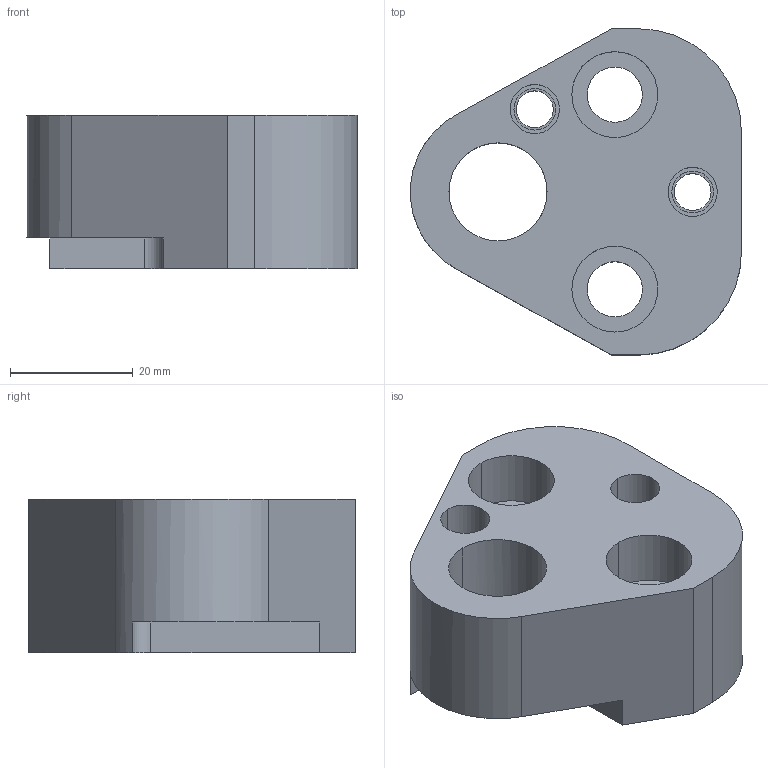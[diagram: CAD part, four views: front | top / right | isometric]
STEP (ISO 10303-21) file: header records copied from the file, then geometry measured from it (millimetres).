
FILE_DESCRIPTION(/* description */ (''),/* implementation_level */ '2;1');
FILE_NAME(/* name */ '3d_25crn-f16_03137_r00.stp',/* time_stamp */ '2011-01-10T14:17:54+09:00',/* author */ ('MISUMI'),/* organization */ (''),/* preprocessor_version */ 'ST-DEVELOPER v11',/* originating_system */ 'UGS - NX 5.0',/* authorisation */ '');
FILE_SCHEMA (('CONFIG_CONTROL_DESIGN'));
Length unit declared in the file: millimetre
Products named in the file (1): 3d_25crn-f16_03137_r00
Bounding box: 53.96 x 53.2 x 25 mm (x, y, z)
Volume: 39853.8 mm3; surface area: 11572.5 mm2
Topology: 1 solids, 1 shells, 44 faces, 110 edges, 73 vertices
Faces by surface type: cylinder 26, plane 16, cone 2
Entity records: 1451 total; most frequent: DIRECTION 255, CARTESIAN_POINT 233, ORIENTED_EDGE 220, EDGE_CURVE 110, AXIS2_PLACEMENT_3D 101, VERTEX_POINT 73, EDGE_LOOP 59, CIRCLE 56
